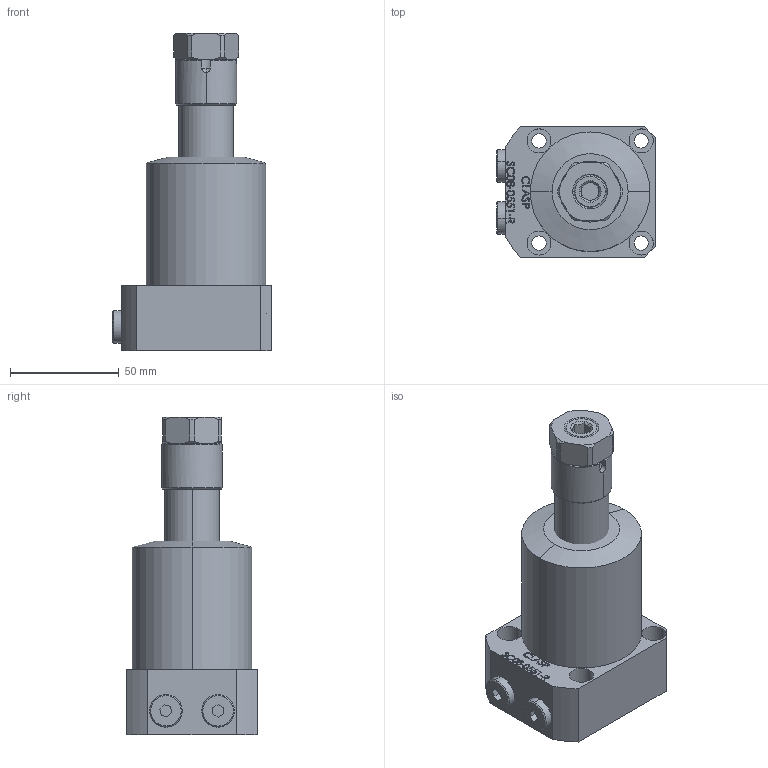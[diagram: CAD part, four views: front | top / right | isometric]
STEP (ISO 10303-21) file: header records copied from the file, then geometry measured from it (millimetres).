
FILE_DESCRIPTION (( 'STEP AP203' ), '1' );
FILE_NAME ('SC08-0551-R.STEP', '2022-07-08T17:18:21', ( '' ), ( '' ), 'SwSTEP 2.0', 'SolidWorks 2017', '' );
FILE_SCHEMA (( 'CONFIG_CONTROL_DESIGN' ));
Length unit declared in the file: millimetre
Products named in the file (6): SC-08-0551-R BODY; SC-08-0551-R-Piston; SC-08-0551-R-05 plug; SC-08-0551-R-04 sleeve; SC-08-0551-R-03-nut; SC08-0551-R
Assembly tree (6 placements, depth 2):
  SC08-0551-R
    SC-08-0551-R BODY
    SC-08-0551-R-Piston
    SC-08-0551-R-05 plug  x2
    SC-08-0551-R-04 sleeve
    SC-08-0551-R-03-nut
Bounding box: 73 x 60 x 146 mm (x, y, z)
Volume: 294852.7 mm3; surface area: 44503.4 mm2
Topology: 6 solids, 6 shells, 377 faces, 941 edges, 617 vertices
Faces by surface type: plane 162, bspline 110, cylinder 62, cone 41, sphere 2
Entity records: 17907 total; most frequent: CARTESIAN_POINT 9237, ORIENTED_EDGE 1818, DIRECTION 1329, EDGE_CURVE 909, VERTEX_POINT 597, LINE 479, VECTOR 479, AXIS2_PLACEMENT_3D 425
